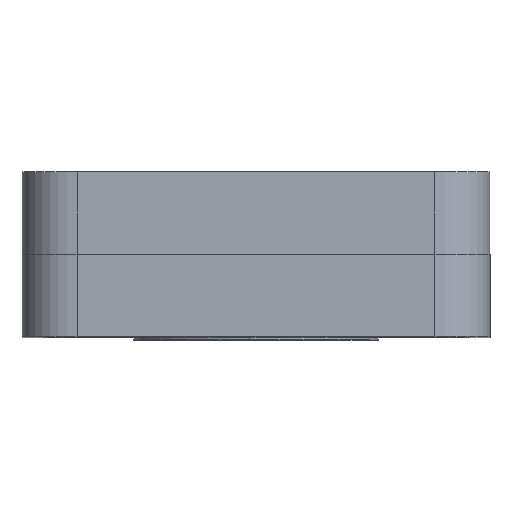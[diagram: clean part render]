
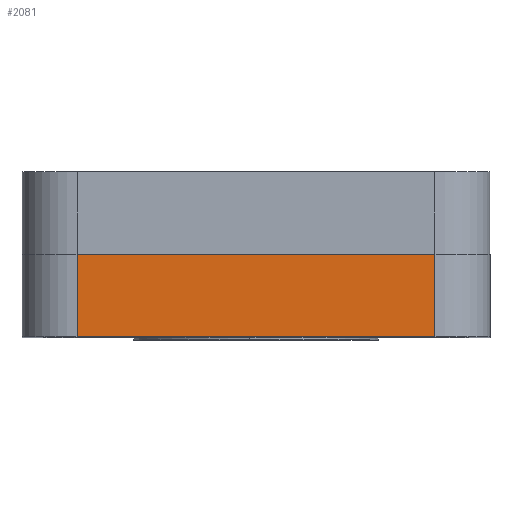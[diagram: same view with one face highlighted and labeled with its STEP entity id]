
A CAD part, top view. The second image highlights one B-rep face of the part: STEP entity #2081.
In plain terms, the highlighted planar face has unit normal (0, 0, 1) as drawn and (0, 1, 0) by its records, which use the part's own axes.
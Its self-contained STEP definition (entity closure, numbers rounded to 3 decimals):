
#57 = LINE ( 'NONE', #977, #925 ) ;
#87 = DIRECTION ( 'NONE',  ( 0., 0., -1. ) ) ;
#370 = LINE ( 'NONE', #4768, #5502 ) ;
#453 = VECTOR ( 'NONE', #3227, 1000. ) ;
#532 = CARTESIAN_POINT ( 'NONE',  ( -6.5, 9., 3. ) ) ;
#620 = EDGE_CURVE ( 'NONE', #3450, #3795, #734, .T. ) ;
#734 = LINE ( 'NONE', #4114, #453 ) ;
#925 = VECTOR ( 'NONE', #87, 1000. ) ;
#977 = CARTESIAN_POINT ( 'NONE',  ( 6.5, 9., 3. ) ) ;
#1295 = DIRECTION ( 'NONE',  ( -1., 0., 0. ) ) ;
#1457 = DIRECTION ( 'NONE',  ( 0., -1., 0. ) ) ;
#1545 = EDGE_CURVE ( 'NONE', #3795, #2610, #370, .T. ) ;
#1582 = ORIENTED_EDGE ( 'NONE', *, *, #2084, .T. ) ;
#1671 = ORIENTED_EDGE ( 'NONE', *, *, #620, .T. ) ;
#1679 = CARTESIAN_POINT ( 'NONE',  ( 6.5, 9., 3. ) ) ;
#1855 = CARTESIAN_POINT ( 'NONE',  ( 8.5, 9., 3. ) ) ;
#1994 = CARTESIAN_POINT ( 'NONE',  ( 6.5, 9., 0. ) ) ;
#2081 = ADVANCED_FACE ( 'NONE', ( #2278 ), #4484, .F. ) ;
#2084 = EDGE_CURVE ( 'NONE', #5338, #3450, #57, .T. ) ;
#2228 = CARTESIAN_POINT ( 'NONE',  ( -6.5, 9., 0. ) ) ;
#2233 = EDGE_LOOP ( 'NONE', ( #1671, #5350, #5629, #1582 ) ) ;
#2278 = FACE_OUTER_BOUND ( 'NONE', #2233, .T. ) ;
#2610 = VERTEX_POINT ( 'NONE', #532 ) ;
#2706 = DIRECTION ( 'NONE',  ( 1., 0., 0. ) ) ;
#3026 = EDGE_CURVE ( 'NONE', #5338, #2610, #5294, .T. ) ;
#3120 = CARTESIAN_POINT ( 'NONE',  ( 8.5, 9., 3. ) ) ;
#3201 = AXIS2_PLACEMENT_3D ( 'NONE', #1855, #1457, #2706 ) ;
#3227 = DIRECTION ( 'NONE',  ( -1., 0., 0. ) ) ;
#3450 = VERTEX_POINT ( 'NONE', #1994 ) ;
#3795 = VERTEX_POINT ( 'NONE', #2228 ) ;
#4114 = CARTESIAN_POINT ( 'NONE',  ( 8.5, 9., 0. ) ) ;
#4484 = PLANE ( 'NONE',  #3201 ) ;
#4768 = CARTESIAN_POINT ( 'NONE',  ( -6.5, 9., 3. ) ) ;
#5115 = VECTOR ( 'NONE', #1295, 1000. ) ;
#5136 = DIRECTION ( 'NONE',  ( 0., 0., 1. ) ) ;
#5294 = LINE ( 'NONE', #3120, #5115 ) ;
#5338 = VERTEX_POINT ( 'NONE', #1679 ) ;
#5350 = ORIENTED_EDGE ( 'NONE', *, *, #1545, .T. ) ;
#5502 = VECTOR ( 'NONE', #5136, 1000. ) ;
#5629 = ORIENTED_EDGE ( 'NONE', *, *, #3026, .F. ) ;
